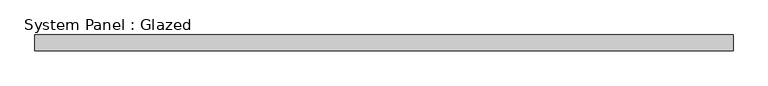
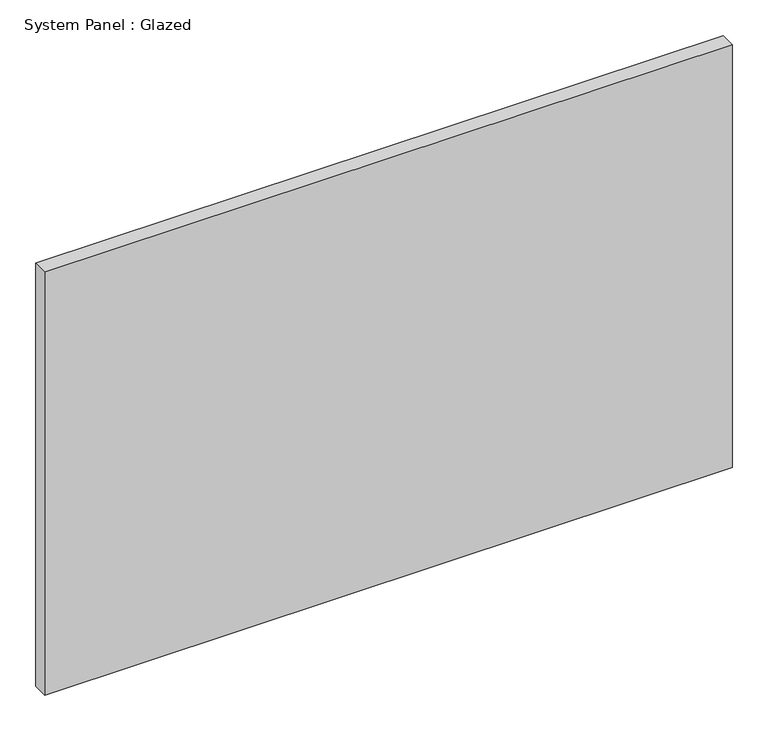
"""IFC4 building model written with IfcOpenShell, lengths in millimetres: plate geometry, System Panel : Glazed."""

from ifc_helpers import new_model, si_unit, origin, origin_with_axes, place, context, project, spatial, polyline, outline, extrude, source, transform, mapped, element, save


def system_panel_glazed_103d3af6(model_context):
    return source(origin(), model_context, "Body", "SweptSolid", [
        extrude(outline(polyline([(556.5841229, 24.5), (-556.5841229, 24.5), (-556.5841229, 49.5), (556.5841229, 49.5), (556.5841229, 24.5)])), origin_with_axes(), (0.0, 0.0, 1.0), 724.4100674),
    ])


if __name__ == "__main__":
    model = new_model("IFC4")
    model_context = context("Model", 3, world=origin())
    ifc_project = project(units=[si_unit("LENGTHUNIT", "METRE", prefix="MILLI")], contexts=[model_context])
    site = spatial("IfcSite", under=ifc_project)
    building = spatial("IfcBuilding", under=site)
    placement = place(None, origin())
    system_panel_glazed_shape = system_panel_glazed_103d3af6(model_context)
    element("IfcPlate", 1, ObjectType="System Panel : Glazed", at=placement, inside=building, context=model_context, shape_type="MappedRepresentation", body=[
        mapped(system_panel_glazed_shape, transform((0.0, 0.0, 0.0), x_axis=(1.0, 0.0, 0.0), y_axis=(0.0, 1.0, 0.0), z_axis=(0.0, 0.0, 1.0))),
    ])
    save(model, "model.ifc")
